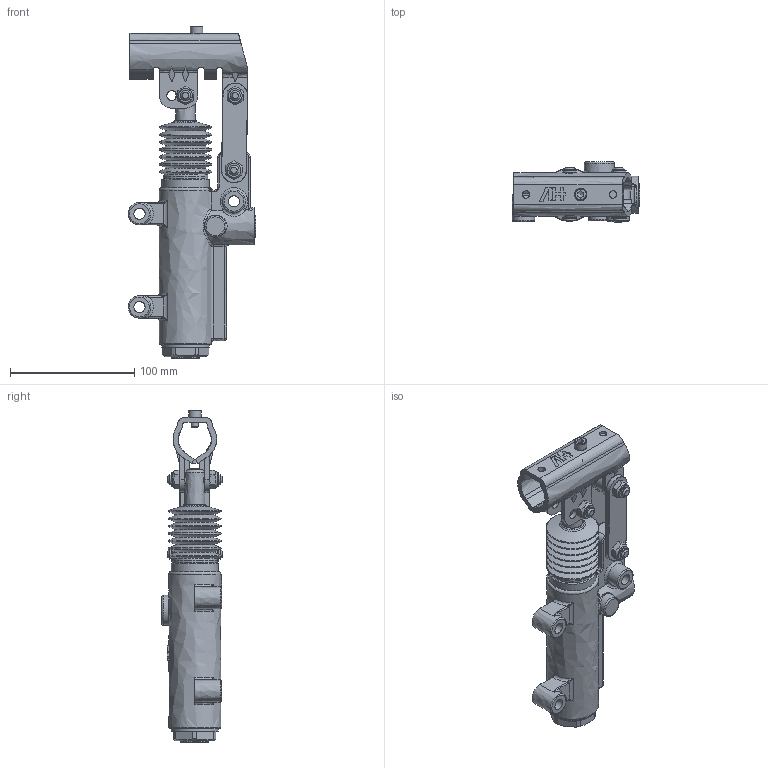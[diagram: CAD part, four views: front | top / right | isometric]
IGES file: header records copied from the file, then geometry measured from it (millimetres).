
Global section: file name: No Iges File Name specified; native system: Autodesk Inventor 2013; preprocessor: AutoDesk Inventor Iges Exporter R2013; author: christian.scardovi; date: 20240322.152157; units: millimetre
Bounding box: 102.5 x 48.5 x 267 mm (x, y, z)
Volume: 396920.3 mm3; surface area: 82461.2 mm2
Topology: 3 solids, 3 shells, 1069 faces, 2760 edges, 1762 vertices
Faces by surface type: bspline 1069
